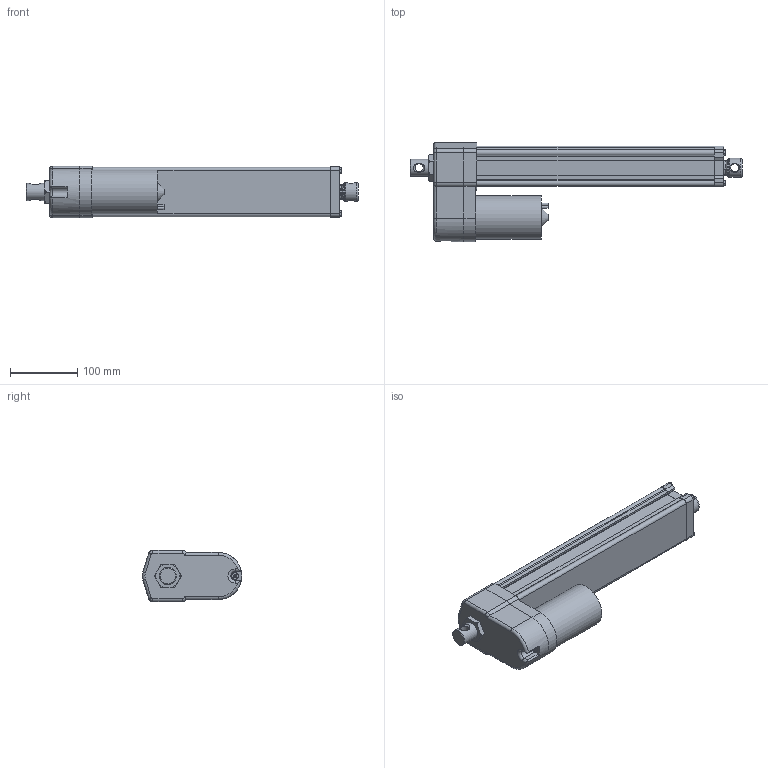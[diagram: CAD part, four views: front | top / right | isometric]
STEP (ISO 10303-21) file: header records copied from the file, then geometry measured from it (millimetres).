
FILE_DESCRIPTION( ( 'STEP AP203' ), '1' );
FILE_NAME( 'p:/temp/worker_332/temp/exporttempdir_432_732_e9GYI/format_0/DA12-21B65M25M0N-AMM.stp', '2020-04-12T13:22:37', ( 'License CC BY-ND 4.0' ), ( 'CADENAS' ), ' ', 'PARTsolutions', ' ' );
FILE_SCHEMA( ( 'CONFIG_CONTROL_DESIGN' ) );
Length unit declared in the file: millimetre
Products named in the file (8): DA12-21B65M25M0N-AMM; _ELECTRAK-LA14-DA12-21B65MM0N-25M-EU-REAR; _Electrak-10-EU-RA-D602700; _D602768eu; _ELECTRAK-LA14-DA12--MOTOR; _DA12-21B65M25M0NAMMtube; _ELECTRAK-LA14-DA12--25-PLATE; _ELECTRAK-LA14-DA12--2521B65MNM-ROD
Assembly tree (7 placements, depth 2):
  DA12-21B65M25M0N-AMM
    _ELECTRAK-LA14-DA12-21B65MM0N-25M-EU-REAR
    _Electrak-10-EU-RA-D602700
    _D602768eu
    _ELECTRAK-LA14-DA12--MOTOR
    _DA12-21B65M25M0NAMMtube
    _ELECTRAK-LA14-DA12--25-PLATE
    _ELECTRAK-LA14-DA12--2521B65MNM-ROD
Bounding box: 493.95 x 148 x 76.2 mm (x, y, z)
Volume: 1603971 mm3; surface area: 380408.7 mm2
Topology: 7 solids, 8 shells, 378 faces, 942 edges, 610 vertices
Faces by surface type: plane 183, cylinder 131, cone 46, torus 14, bspline 4
Full cylindrical faces by diameter (mm): 4 x2, 4.126 x1, 4.8 x6, 5 x5, 5.6 x4, 7.878 x4, 9.398 x1, 12.2 x2, 16 x1, 21.8 x1, 25.2 x1, 25.4 x1, 26.24 x1, 28.5 x1, 28.6 x2, 47.625 x1, 65.3 x1
Entity records: 11834 total; most frequent: CARTESIAN_POINT 2729, DIRECTION 1869, ORIENTED_EDGE 1744, EDGE_CURVE 872, AXIS2_PLACEMENT_3D 702, VERTEX_POINT 602, EDGE_LOOP 485, LINE 465
